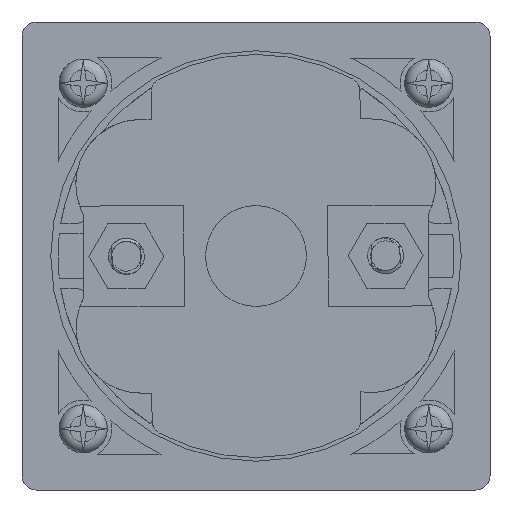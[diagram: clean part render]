
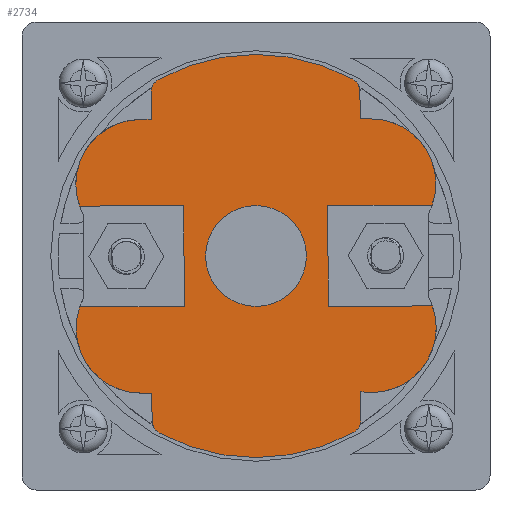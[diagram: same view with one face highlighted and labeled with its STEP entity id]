
A CAD part, front view. The second image highlights one B-rep face of the part: STEP entity #2734.
In plain terms, the highlighted planar face has unit normal (0, -1, 0).
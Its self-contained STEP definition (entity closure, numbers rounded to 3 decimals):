
#1024=FACE_BOUND('',#5811,.T.);
#1025=FACE_BOUND('',#5812,.T.);
#2734=ADVANCED_FACE('',(#1024,#1025),#3642,.F.);
#3642=PLANE('',#23752);
#5811=EDGE_LOOP('',(#11271,#11272,#11273,#11274,#11275,#11276,#11277,#11278,
#11279,#11280,#11281,#11282,#11283,#11284,#11285,#11286,#11287,#11288,#11289,
#11290,#11291,#11292,#11293,#11294,#11295));
#5812=EDGE_LOOP('',(#11296));
#6978=CIRCLE('',#23740,9.);
#6979=CIRCLE('',#23741,2.);
#6980=CIRCLE('',#23742,28.);
#6981=CIRCLE('',#23743,2.);
#6982=CIRCLE('',#23744,8.96);
#6983=CIRCLE('',#23745,9.);
#6984=CIRCLE('',#23746,9.);
#6985=CIRCLE('',#23747,2.);
#6986=CIRCLE('',#23748,28.);
#6987=CIRCLE('',#23749,2.);
#6988=CIRCLE('',#23750,9.);
#6989=CIRCLE('',#23751,7.);
#11271=ORIENTED_EDGE('',*,*,#18103,.F.);
#11272=ORIENTED_EDGE('',*,*,#18104,.T.);
#11273=ORIENTED_EDGE('',*,*,#18105,.T.);
#11274=ORIENTED_EDGE('',*,*,#18106,.T.);
#11275=ORIENTED_EDGE('',*,*,#18107,.T.);
#11276=ORIENTED_EDGE('',*,*,#18108,.T.);
#11277=ORIENTED_EDGE('',*,*,#18109,.T.);
#11278=ORIENTED_EDGE('',*,*,#18110,.T.);
#11279=ORIENTED_EDGE('',*,*,#18111,.T.);
#11280=ORIENTED_EDGE('',*,*,#18112,.T.);
#11281=ORIENTED_EDGE('',*,*,#18113,.T.);
#11282=ORIENTED_EDGE('',*,*,#18114,.F.);
#11283=ORIENTED_EDGE('',*,*,#18115,.F.);
#11284=ORIENTED_EDGE('',*,*,#18116,.F.);
#11285=ORIENTED_EDGE('',*,*,#18117,.T.);
#11286=ORIENTED_EDGE('',*,*,#18118,.T.);
#11287=ORIENTED_EDGE('',*,*,#18119,.T.);
#11288=ORIENTED_EDGE('',*,*,#18120,.T.);
#11289=ORIENTED_EDGE('',*,*,#18121,.T.);
#11290=ORIENTED_EDGE('',*,*,#18122,.T.);
#11291=ORIENTED_EDGE('',*,*,#18123,.T.);
#11292=ORIENTED_EDGE('',*,*,#18124,.T.);
#11293=ORIENTED_EDGE('',*,*,#18125,.T.);
#11294=ORIENTED_EDGE('',*,*,#18126,.F.);
#11295=ORIENTED_EDGE('',*,*,#18127,.F.);
#11296=ORIENTED_EDGE('',*,*,#18128,.F.);
#15240=VERTEX_POINT('',#67085);
#15241=VERTEX_POINT('',#67086);
#15242=VERTEX_POINT('',#67088);
#15243=VERTEX_POINT('',#67090);
#15244=VERTEX_POINT('',#67092);
#15245=VERTEX_POINT('',#67094);
#15246=VERTEX_POINT('',#67096);
#15247=VERTEX_POINT('',#67098);
#15248=VERTEX_POINT('',#67100);
#15249=VERTEX_POINT('',#67102);
#15250=VERTEX_POINT('',#67104);
#15251=VERTEX_POINT('',#67106);
#15252=VERTEX_POINT('',#67108);
#15253=VERTEX_POINT('',#67110);
#15254=VERTEX_POINT('',#67112);
#15255=VERTEX_POINT('',#67114);
#15256=VERTEX_POINT('',#67116);
#15257=VERTEX_POINT('',#67118);
#15258=VERTEX_POINT('',#67120);
#15259=VERTEX_POINT('',#67122);
#15260=VERTEX_POINT('',#67124);
#15261=VERTEX_POINT('',#67126);
#15262=VERTEX_POINT('',#67128);
#15263=VERTEX_POINT('',#67130);
#15264=VERTEX_POINT('',#67132);
#15265=VERTEX_POINT('',#67135);
#18103=EDGE_CURVE('',#15240,#15241,#20274,.T.);
#18104=EDGE_CURVE('',#15240,#15242,#6978,.T.);
#18105=EDGE_CURVE('',#15242,#15243,#20275,.T.);
#18106=EDGE_CURVE('',#15243,#15244,#20276,.T.);
#18107=EDGE_CURVE('',#15244,#15245,#6979,.T.);
#18108=EDGE_CURVE('',#15245,#15246,#6980,.T.);
#18109=EDGE_CURVE('',#15246,#15247,#6981,.T.);
#18110=EDGE_CURVE('',#15247,#15248,#20277,.T.);
#18111=EDGE_CURVE('',#15248,#15249,#6982,.T.);
#18112=EDGE_CURVE('',#15249,#15250,#20278,.T.);
#18113=EDGE_CURVE('',#15250,#15251,#6983,.T.);
#18114=EDGE_CURVE('',#15252,#15251,#20279,.T.);
#18115=EDGE_CURVE('',#15253,#15252,#20280,.T.);
#18116=EDGE_CURVE('',#15254,#15253,#20281,.T.);
#18117=EDGE_CURVE('',#15254,#15255,#6984,.T.);
#18118=EDGE_CURVE('',#15255,#15256,#20282,.T.);
#18119=EDGE_CURVE('',#15256,#15257,#20283,.T.);
#18120=EDGE_CURVE('',#15257,#15258,#6985,.T.);
#18121=EDGE_CURVE('',#15258,#15259,#6986,.T.);
#18122=EDGE_CURVE('',#15259,#15260,#6987,.T.);
#18123=EDGE_CURVE('',#15260,#15261,#20284,.T.);
#18124=EDGE_CURVE('',#15261,#15262,#20285,.T.);
#18125=EDGE_CURVE('',#15262,#15263,#6988,.T.);
#18126=EDGE_CURVE('',#15264,#15263,#20286,.T.);
#18127=EDGE_CURVE('',#15241,#15264,#20287,.T.);
#18128=EDGE_CURVE('',#15265,#15265,#6989,.T.);
#20274=LINE('',#67084,#21867);
#20275=LINE('',#67089,#21868);
#20276=LINE('',#67091,#21869);
#20277=LINE('',#67099,#21870);
#20278=LINE('',#67103,#21871);
#20279=LINE('',#67107,#21872);
#20280=LINE('',#67109,#21873);
#20281=LINE('',#67111,#21874);
#20282=LINE('',#67115,#21875);
#20283=LINE('',#67117,#21876);
#20284=LINE('',#67125,#21877);
#20285=LINE('',#67127,#21878);
#20286=LINE('',#67131,#21879);
#20287=LINE('',#67133,#21880);
#21867=VECTOR('',#28170,1.);
#21868=VECTOR('',#28173,1.);
#21869=VECTOR('',#28174,1.);
#21870=VECTOR('',#28181,1.);
#21871=VECTOR('',#28184,1.);
#21872=VECTOR('',#28187,1.);
#21873=VECTOR('',#28188,1.);
#21874=VECTOR('',#28189,1.);
#21875=VECTOR('',#28192,1.);
#21876=VECTOR('',#28193,1.);
#21877=VECTOR('',#28200,1.);
#21878=VECTOR('',#28201,1.);
#21879=VECTOR('',#28204,1.);
#21880=VECTOR('',#28205,1.);
#23740=AXIS2_PLACEMENT_3D('',#67087,#28171,#28172);
#23741=AXIS2_PLACEMENT_3D('',#67093,#28175,#28176);
#23742=AXIS2_PLACEMENT_3D('',#67095,#28177,#28178);
#23743=AXIS2_PLACEMENT_3D('',#67097,#28179,#28180);
#23744=AXIS2_PLACEMENT_3D('',#67101,#28182,#28183);
#23745=AXIS2_PLACEMENT_3D('',#67105,#28185,#28186);
#23746=AXIS2_PLACEMENT_3D('',#67113,#28190,#28191);
#23747=AXIS2_PLACEMENT_3D('',#67119,#28194,#28195);
#23748=AXIS2_PLACEMENT_3D('',#67121,#28196,#28197);
#23749=AXIS2_PLACEMENT_3D('',#67123,#28198,#28199);
#23750=AXIS2_PLACEMENT_3D('',#67129,#28202,#28203);
#23751=AXIS2_PLACEMENT_3D('',#67134,#28206,#28207);
#23752=AXIS2_PLACEMENT_3D('',#67136,#28208,#28209);
#28170=DIRECTION('',(1.,0.,0.003));
#28171=DIRECTION('',(0.,-1.,0.));
#28172=DIRECTION('',(-0.89,0.,0.456));
#28173=DIRECTION('',(1.,0.,0.003));
#28174=DIRECTION('',(0.003,0.,-1.));
#28175=DIRECTION('',(0.,-1.,0.));
#28176=DIRECTION('',(1.,0.,0.003));
#28177=DIRECTION('',(0.,-1.,0.));
#28178=DIRECTION('',(1.,0.,0.003));
#28179=DIRECTION('',(0.,-1.,0.));
#28180=DIRECTION('',(1.,0.,0.003));
#28181=DIRECTION('',(-0.003,0.,1.));
#28182=DIRECTION('',(0.,-1.,0.));
#28183=DIRECTION('',(0.,0.,-1.));
#28184=DIRECTION('',(1.,0.,0.003));
#28185=DIRECTION('',(0.,-1.,0.));
#28186=DIRECTION('',(0.,0.,-1.));
#28187=DIRECTION('',(1.,0.,0.003));
#28188=DIRECTION('',(0.003,0.,-1.));
#28189=DIRECTION('',(-1.,0.,-0.003));
#28190=DIRECTION('',(0.,-1.,0.));
#28191=DIRECTION('',(1.,0.,0.003));
#28192=DIRECTION('',(-1.,0.,-0.003));
#28193=DIRECTION('',(-0.003,0.,1.));
#28194=DIRECTION('',(0.,-1.,0.));
#28195=DIRECTION('',(1.,0.,0.003));
#28196=DIRECTION('',(0.,-1.,0.));
#28197=DIRECTION('',(1.,0.,0.003));
#28198=DIRECTION('',(0.,-1.,0.));
#28199=DIRECTION('',(1.,0.,0.003));
#28200=DIRECTION('',(0.003,0.,-1.));
#28201=DIRECTION('',(-1.,0.,-0.003));
#28202=DIRECTION('',(0.,-1.,0.));
#28203=DIRECTION('',(-1.,0.,-0.003));
#28204=DIRECTION('',(-1.,0.,-0.003));
#28205=DIRECTION('',(-0.003,0.,1.));
#28206=DIRECTION('',(0.,-1.,0.));
#28207=DIRECTION('',(-1.,0.,-0.003));
#28208=DIRECTION('',(0.,1.,0.));
#28209=DIRECTION('',(0.,0.,1.));
#67084=CARTESIAN_POINT('',(-34.164,-81.1,-7.088));
#67085=CARTESIAN_POINT('',(-24.468,-81.1,-7.063));
#67086=CARTESIAN_POINT('',(-9.982,-81.1,-7.026));
#67087=CARTESIAN_POINT('',(-15.974,-81.1,-10.041));
#67088=CARTESIAN_POINT('',(-15.951,-81.1,-19.041));
#67089=CARTESIAN_POINT('',(23.753,-81.1,-18.934));
#67090=CARTESIAN_POINT('',(-14.451,-81.1,-19.037));
#67091=CARTESIAN_POINT('',(-14.451,-81.1,-19.037));
#67092=CARTESIAN_POINT('',(-14.441,-81.1,-22.835));
#67093=CARTESIAN_POINT('',(-12.441,-81.1,-22.83));
#67094=CARTESIAN_POINT('',(-13.398,-81.1,-24.586));
#67095=CARTESIAN_POINT('',(0.,-81.1,0.));
#67096=CARTESIAN_POINT('',(13.525,-81.1,-24.517));
#67097=CARTESIAN_POINT('',(12.558,-81.1,-22.766));
#67098=CARTESIAN_POINT('',(14.558,-81.1,-22.761));
#67099=CARTESIAN_POINT('',(14.558,-81.1,-22.761));
#67100=CARTESIAN_POINT('',(14.548,-81.1,-18.837));
#67101=CARTESIAN_POINT('',(16.02,-81.1,-9.999));
#67102=CARTESIAN_POINT('',(15.978,-81.1,-18.959));
#67103=CARTESIAN_POINT('',(23.752,-81.1,-18.938));
#67104=CARTESIAN_POINT('',(16.119,-81.1,-18.958));
#67105=CARTESIAN_POINT('',(16.026,-81.1,-9.959));
#67106=CARTESIAN_POINT('',(24.503,-81.1,-6.937));
#67107=CARTESIAN_POINT('',(10.018,-81.1,-6.974));
#67108=CARTESIAN_POINT('',(10.018,-81.1,-6.974));
#67109=CARTESIAN_POINT('',(9.982,-81.1,7.026));
#67110=CARTESIAN_POINT('',(9.982,-81.1,7.026));
#67111=CARTESIAN_POINT('',(34.164,-81.1,7.088));
#67112=CARTESIAN_POINT('',(24.467,-81.1,7.063));
#67113=CARTESIAN_POINT('',(15.974,-81.1,10.041));
#67114=CARTESIAN_POINT('',(15.951,-81.1,19.041));
#67115=CARTESIAN_POINT('',(15.951,-81.1,19.041));
#67116=CARTESIAN_POINT('',(14.451,-81.1,19.037));
#67117=CARTESIAN_POINT('',(14.451,-81.1,19.037));
#67118=CARTESIAN_POINT('',(14.441,-81.1,22.835));
#67119=CARTESIAN_POINT('',(12.441,-81.1,22.83));
#67120=CARTESIAN_POINT('',(13.398,-81.1,24.586));
#67121=CARTESIAN_POINT('',(0.,-81.1,0.));
#67122=CARTESIAN_POINT('',(-13.525,-81.1,24.517));
#67123=CARTESIAN_POINT('',(-12.558,-81.1,22.766));
#67124=CARTESIAN_POINT('',(-14.558,-81.1,22.761));
#67125=CARTESIAN_POINT('',(-14.558,-81.1,22.761));
#67126=CARTESIAN_POINT('',(-14.549,-81.1,18.963));
#67127=CARTESIAN_POINT('',(-14.549,-81.1,18.963));
#67128=CARTESIAN_POINT('',(-16.049,-81.1,18.959));
#67129=CARTESIAN_POINT('',(-16.026,-81.1,9.959));
#67130=CARTESIAN_POINT('',(-24.503,-81.1,6.937));
#67131=CARTESIAN_POINT('',(-10.018,-81.1,6.974));
#67132=CARTESIAN_POINT('',(-10.018,-81.1,6.974));
#67133=CARTESIAN_POINT('',(-9.982,-81.1,-7.026));
#67134=CARTESIAN_POINT('',(0.,-81.1,0.));
#67135=CARTESIAN_POINT('',(-7.,-81.1,-0.018));
#67136=CARTESIAN_POINT('',(23.741,-81.1,-14.593));
